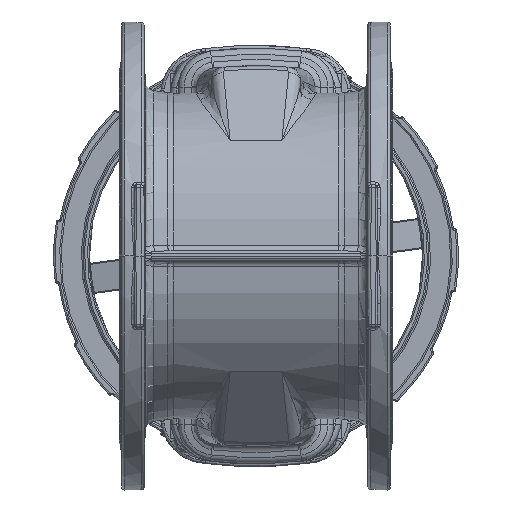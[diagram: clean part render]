
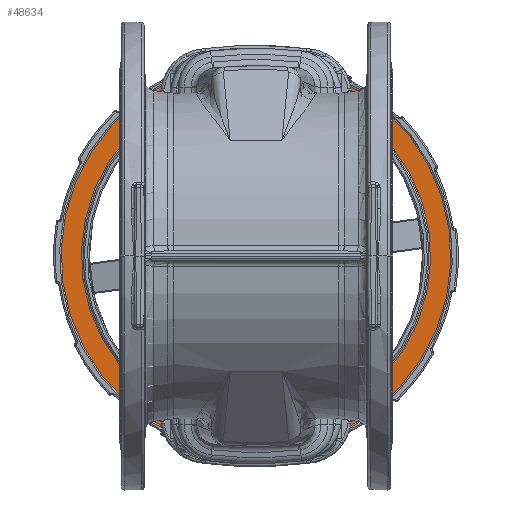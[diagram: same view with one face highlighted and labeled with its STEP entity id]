
A CAD part, front view. The second image highlights one B-rep face of the part: STEP entity #48634.
In plain terms, the highlighted planar face has unit normal (0, -1, 0).
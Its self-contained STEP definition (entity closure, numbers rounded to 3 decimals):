
#2895 = DIRECTION ( 'NONE',  ( 0., 0., 1. ) ) ;
#8991 = EDGE_CURVE ( 'NONE', #119541, #40420, #45530, .T. ) ;
#9461 = CARTESIAN_POINT ( 'NONE',  ( 0., -10.383, 0. ) ) ;
#11217 = AXIS2_PLACEMENT_3D ( 'NONE', #73591, #107927, #138573 ) ;
#14123 = DIRECTION ( 'NONE',  ( 0., 1., 0. ) ) ;
#14454 = AXIS2_PLACEMENT_3D ( 'NONE', #9461, #31151, #133390 ) ;
#14784 = CARTESIAN_POINT ( 'NONE',  ( 0., -10.383, 0. ) ) ;
#24782 = AXIS2_PLACEMENT_3D ( 'NONE', #116258, #28738, #141414 ) ;
#28738 = DIRECTION ( 'NONE',  ( 0., 1., 0. ) ) ;
#29801 = EDGE_LOOP ( 'NONE', ( #29995, #120583 ) ) ;
#29995 = ORIENTED_EDGE ( 'NONE', *, *, #111622, .T. ) ;
#31151 = DIRECTION ( 'NONE',  ( 0., -1., 0. ) ) ;
#31297 = AXIS2_PLACEMENT_3D ( 'NONE', #38002, #14123, #2895 ) ;
#35710 = DIRECTION ( 'NONE',  ( 0., 0., 1. ) ) ;
#38002 = CARTESIAN_POINT ( 'NONE',  ( 0., -10.383, 0. ) ) ;
#39586 = CARTESIAN_POINT ( 'NONE',  ( 0., -10.383, -192.5 ) ) ;
#40420 = VERTEX_POINT ( 'NONE', #84616 ) ;
#45530 = CIRCLE ( 'NONE', #31297, 172.5 ) ;
#48634 = ADVANCED_FACE ( 'NONE', ( #107207, #128114 ), #95993, .F. ) ;
#53592 = EDGE_LOOP ( 'NONE', ( #69713, #137316 ) ) ;
#63976 = EDGE_CURVE ( 'NONE', #147239, #65018, #120449, .T. ) ;
#65018 = VERTEX_POINT ( 'NONE', #39586 ) ;
#65240 = CIRCLE ( 'NONE', #24782, 172.5 ) ;
#69713 = ORIENTED_EDGE ( 'NONE', *, *, #63976, .T. ) ;
#73591 = CARTESIAN_POINT ( 'NONE',  ( 171., -10.383, 0. ) ) ;
#77502 = AXIS2_PLACEMENT_3D ( 'NONE', #14784, #117774, #35710 ) ;
#84616 = CARTESIAN_POINT ( 'NONE',  ( 0., -10.383, 172.5 ) ) ;
#85787 = CARTESIAN_POINT ( 'NONE',  ( 0., -10.383, 192.5 ) ) ;
#90170 = CARTESIAN_POINT ( 'NONE',  ( 0., -10.383, -172.5 ) ) ;
#95993 = PLANE ( 'NONE',  #11217 ) ;
#107207 = FACE_BOUND ( 'NONE', #29801, .T. ) ;
#107473 = CIRCLE ( 'NONE', #14454, 192.5 ) ;
#107927 = DIRECTION ( 'NONE',  ( 0., 1., 0. ) ) ;
#111622 = EDGE_CURVE ( 'NONE', #40420, #119541, #65240, .T. ) ;
#116258 = CARTESIAN_POINT ( 'NONE',  ( 0., -10.383, 0. ) ) ;
#117774 = DIRECTION ( 'NONE',  ( 0., -1., 0. ) ) ;
#119541 = VERTEX_POINT ( 'NONE', #90170 ) ;
#120449 = CIRCLE ( 'NONE', #77502, 192.5 ) ;
#120583 = ORIENTED_EDGE ( 'NONE', *, *, #8991, .T. ) ;
#128114 = FACE_OUTER_BOUND ( 'NONE', #53592, .T. ) ;
#133390 = DIRECTION ( 'NONE',  ( 0., 0., 1. ) ) ;
#137316 = ORIENTED_EDGE ( 'NONE', *, *, #138397, .T. ) ;
#138397 = EDGE_CURVE ( 'NONE', #65018, #147239, #107473, .T. ) ;
#138573 = DIRECTION ( 'NONE',  ( 0., 0., 1. ) ) ;
#141414 = DIRECTION ( 'NONE',  ( 0., 0., 1. ) ) ;
#147239 = VERTEX_POINT ( 'NONE', #85787 ) ;
